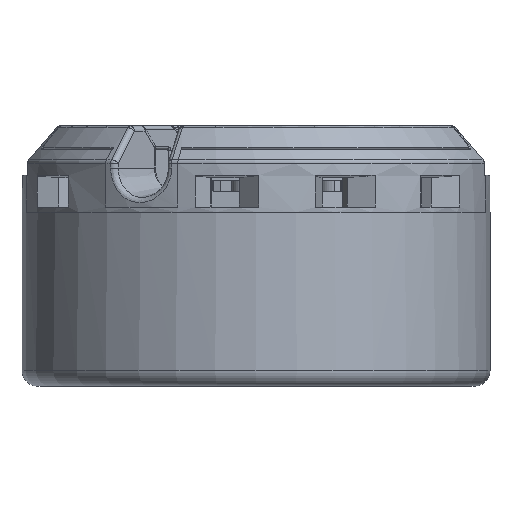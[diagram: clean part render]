
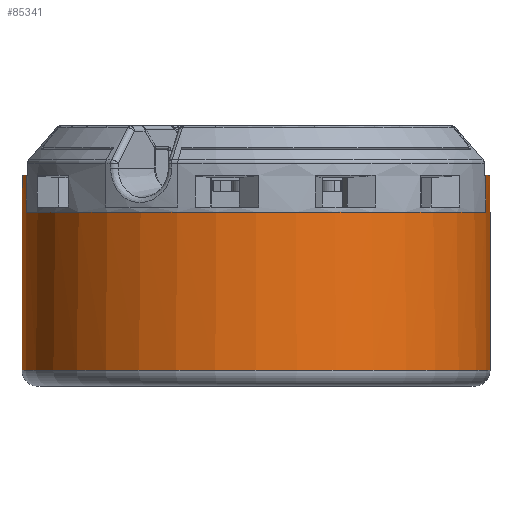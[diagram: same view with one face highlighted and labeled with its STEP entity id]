
A CAD part, left-side view. The second image highlights one B-rep face of the part: STEP entity #85341.
In plain terms, the highlighted cylindrical face has radius 22.2 mm (diameter 44.4 mm), a partial arc.
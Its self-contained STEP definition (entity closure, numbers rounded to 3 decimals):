
#75156=CARTESIAN_POINT('',(0.,0.,-11.5));
#75157=DIRECTION('',(0.,0.,-1.));
#75158=DIRECTION('',(0.,-1.,0.));
#75159=AXIS2_PLACEMENT_3D('',#75156,#75157,#75158);
#75181=CARTESIAN_POINT('',(0.,0.,3.5));
#75182=DIRECTION('',(0.,0.,1.));
#75183=DIRECTION('',(0.194,0.981,0.));
#75184=AXIS2_PLACEMENT_3D('',#75181,#75182,#75183);
#75186=DIRECTION('',(0.,0.,1.));
#75187=VECTOR('',#75186,15.);
#75188=CARTESIAN_POINT('',(0.,-22.2,-11.5));
#75189=LINE('',#75188,#75187);
#75190=CARTESIAN_POINT('',(0.,0.,3.5));
#75191=DIRECTION('',(0.,0.,1.));
#75192=DIRECTION('',(0.,-1.,0.));
#75193=AXIS2_PLACEMENT_3D('',#75190,#75191,#75192);
#75221=CARTESIAN_POINT('',(0.,0.,3.5));
#75222=DIRECTION('',(0.,0.,1.));
#75223=DIRECTION('',(-0.194,0.981,0.));
#75224=AXIS2_PLACEMENT_3D('',#75221,#75222,#75223);
#78111=DIRECTION('',(0.,0.,1.));
#78112=VECTOR('',#78111,15.);
#78113=CARTESIAN_POINT('',(0.,22.2,-11.5));
#78114=LINE('',#78113,#78112);
#78115=DIRECTION('',(0.,0.,1.));
#78116=VECTOR('',#78115,3.5);
#78117=CARTESIAN_POINT('',(4.3,21.78,3.5));
#78118=LINE('',#78117,#78116);
#78119=CARTESIAN_POINT('',(0.,0.,7.));
#78120=DIRECTION('',(0.,0.,1.));
#78121=DIRECTION('',(0.194,0.981,0.));
#78122=AXIS2_PLACEMENT_3D('',#78119,#78120,#78121);
#78124=DIRECTION('',(0.,0.,1.));
#78125=VECTOR('',#78124,3.5);
#78126=CARTESIAN_POINT('',(-4.3,-21.78,3.5));
#78127=LINE('',#78126,#78125);
#78128=CARTESIAN_POINT('',(0.,0.,7.));
#78129=DIRECTION('',(0.,0.,1.));
#78130=DIRECTION('',(-0.194,-0.981,0.));
#78131=AXIS2_PLACEMENT_3D('',#78128,#78129,#78130);
#78291=DIRECTION('',(0.,0.,1.));
#78292=VECTOR('',#78291,3.5);
#78293=CARTESIAN_POINT('',(-4.3,21.78,3.5));
#78294=LINE('',#78293,#78292);
#78313=DIRECTION('',(0.,0.,1.));
#78314=VECTOR('',#78313,3.5);
#78315=CARTESIAN_POINT('',(4.3,-21.78,3.5));
#78316=LINE('',#78315,#78314);
#79557=CARTESIAN_POINT('',(0.,-22.2,-11.5));
#79558=CARTESIAN_POINT('',(0.,22.2,-11.5));
#79559=VERTEX_POINT('',#79557);
#79560=VERTEX_POINT('',#79558);
#79639=CARTESIAN_POINT('',(-4.3,21.78,3.5));
#79640=CARTESIAN_POINT('',(-4.3,-21.78,3.5));
#79641=VERTEX_POINT('',#79639);
#79642=VERTEX_POINT('',#79640);
#79643=CARTESIAN_POINT('',(4.3,-21.78,3.5));
#79644=CARTESIAN_POINT('',(4.3,21.78,3.5));
#79645=VERTEX_POINT('',#79643);
#79646=VERTEX_POINT('',#79644);
#79647=CARTESIAN_POINT('',(0.,22.2,3.5));
#79648=VERTEX_POINT('',#79647);
#79653=CARTESIAN_POINT('',(4.3,21.78,7.));
#79654=VERTEX_POINT('',#79653);
#79655=CARTESIAN_POINT('',(-4.3,21.78,7.));
#79656=VERTEX_POINT('',#79655);
#79659=CARTESIAN_POINT('',(0.,-22.2,3.5));
#79660=VERTEX_POINT('',#79659);
#79663=CARTESIAN_POINT('',(-4.3,-21.78,7.));
#79664=VERTEX_POINT('',#79663);
#79665=CARTESIAN_POINT('',(4.3,-21.78,7.));
#79666=VERTEX_POINT('',#79665);
#85316=CARTESIAN_POINT('',(0.,0.,-13.));
#85317=DIRECTION('',(0.,0.,1.));
#85318=DIRECTION('',(0.,1.,0.));
#85319=AXIS2_PLACEMENT_3D('',#85316,#85317,#85318);
#85320=CYLINDRICAL_SURFACE('',#85319,22.2);
#85321=ORIENTED_EDGE('',*,*,#81056,.T.);
#85322=ORIENTED_EDGE('',*,*,#81054,.F.);
#85324=ORIENTED_EDGE('',*,*,#85323,.T.);
#85326=ORIENTED_EDGE('',*,*,#85325,.T.);
#85328=ORIENTED_EDGE('',*,*,#85327,.F.);
#85329=ORIENTED_EDGE('',*,*,#81071,.T.);
#85331=ORIENTED_EDGE('',*,*,#85330,.T.);
#85333=ORIENTED_EDGE('',*,*,#85332,.T.);
#85335=ORIENTED_EDGE('',*,*,#85334,.F.);
#85336=ORIENTED_EDGE('',*,*,#81061,.F.);
#85337=ORIENTED_EDGE('',*,*,#81059,.F.);
#85338=ORIENTED_EDGE('',*,*,#81027,.T.);
#85339=EDGE_LOOP('',(#85321,#85322,#85324,#85326,#85328,#85329,#85331,#85333,
#85335,#85336,#85337,#85338));
#85340=FACE_OUTER_BOUND('',#85339,.F.);
#85341=ADVANCED_FACE('',(#85340),#85320,.T.);
#75160=CIRCLE('',#75159,22.2);
#75185=CIRCLE('',#75184,22.2);
#75194=CIRCLE('',#75193,22.2);
#75225=CIRCLE('',#75224,22.2);
#78123=CIRCLE('',#78122,22.2);
#78132=CIRCLE('',#78131,22.2);
#81027=EDGE_CURVE('',#79559,#79560,#75160,.T.);
#81054=EDGE_CURVE('',#79646,#79648,#75185,.T.);
#81056=EDGE_CURVE('',#79560,#79648,#78114,.T.);
#81059=EDGE_CURVE('',#79559,#79660,#75189,.T.);
#81061=EDGE_CURVE('',#79660,#79645,#75194,.T.);
#81071=EDGE_CURVE('',#79641,#79642,#75225,.T.);
#85323=EDGE_CURVE('',#79646,#79654,#78118,.T.);
#85325=EDGE_CURVE('',#79654,#79656,#78123,.T.);
#85327=EDGE_CURVE('',#79641,#79656,#78294,.T.);
#85330=EDGE_CURVE('',#79642,#79664,#78127,.T.);
#85332=EDGE_CURVE('',#79664,#79666,#78132,.T.);
#85334=EDGE_CURVE('',#79645,#79666,#78316,.T.);
